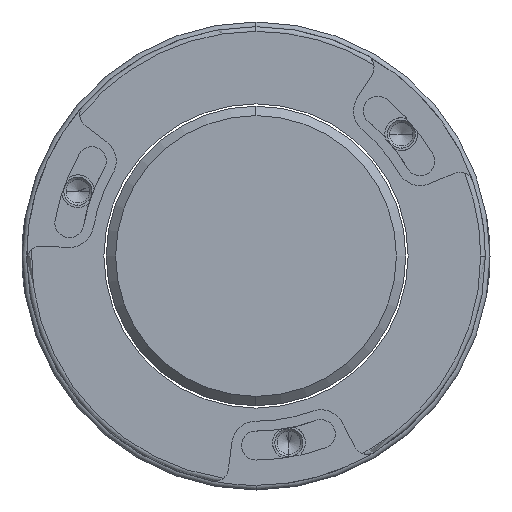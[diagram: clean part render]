
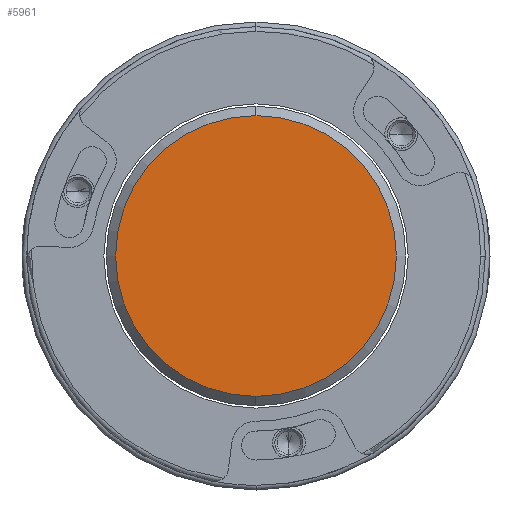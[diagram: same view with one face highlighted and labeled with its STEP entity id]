
A CAD part, left-side view. The second image highlights one B-rep face of the part: STEP entity #5961.
In plain terms, the highlighted planar face has unit normal (-1, 0, 0).
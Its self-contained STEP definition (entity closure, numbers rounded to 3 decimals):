
#611 = DIRECTION ( 'NONE',  ( -1., 0., 0. ) ) ;
#621 = DIRECTION ( 'NONE',  ( -1., 0., 0. ) ) ;
#1196 = CIRCLE ( 'NONE', #5837, 15. ) ;
#1670 = DIRECTION ( 'NONE',  ( 0., 0., 1. ) ) ;
#1683 = CIRCLE ( 'NONE', #5351, 15. ) ;
#1926 = VERTEX_POINT ( 'NONE', #3184 ) ;
#2024 = EDGE_CURVE ( 'NONE', #2394, #1926, #1196, .T. ) ;
#2394 = VERTEX_POINT ( 'NONE', #2584 ) ;
#2463 = PLANE ( 'NONE',  #3167 ) ;
#2584 = CARTESIAN_POINT ( 'NONE',  ( -10., 0., 15. ) ) ;
#3063 = EDGE_CURVE ( 'NONE', #1926, #2394, #1683, .T. ) ;
#3167 = AXIS2_PLACEMENT_3D ( 'NONE', #3552, #4118, #4655 ) ;
#3184 = CARTESIAN_POINT ( 'NONE',  ( -10., 0., -15. ) ) ;
#3197 = CARTESIAN_POINT ( 'NONE',  ( -10., 0., 0. ) ) ;
#3552 = CARTESIAN_POINT ( 'NONE',  ( -10., 0., 0. ) ) ;
#3836 = CARTESIAN_POINT ( 'NONE',  ( -10., 0., 0. ) ) ;
#4118 = DIRECTION ( 'NONE',  ( -1., 0., 0. ) ) ;
#4525 = ORIENTED_EDGE ( 'NONE', *, *, #3063, .T. ) ;
#4655 = DIRECTION ( 'NONE',  ( 0., 0., 1. ) ) ;
#4678 = EDGE_LOOP ( 'NONE', ( #4525, #5272 ) ) ;
#5272 = ORIENTED_EDGE ( 'NONE', *, *, #2024, .T. ) ;
#5351 = AXIS2_PLACEMENT_3D ( 'NONE', #3197, #611, #5999 ) ;
#5837 = AXIS2_PLACEMENT_3D ( 'NONE', #3836, #621, #1670 ) ;
#5961 = ADVANCED_FACE ( 'NONE', ( #6298 ), #2463, .T. ) ;
#5999 = DIRECTION ( 'NONE',  ( 0., 0., 1. ) ) ;
#6298 = FACE_OUTER_BOUND ( 'NONE', #4678, .T. ) ;
